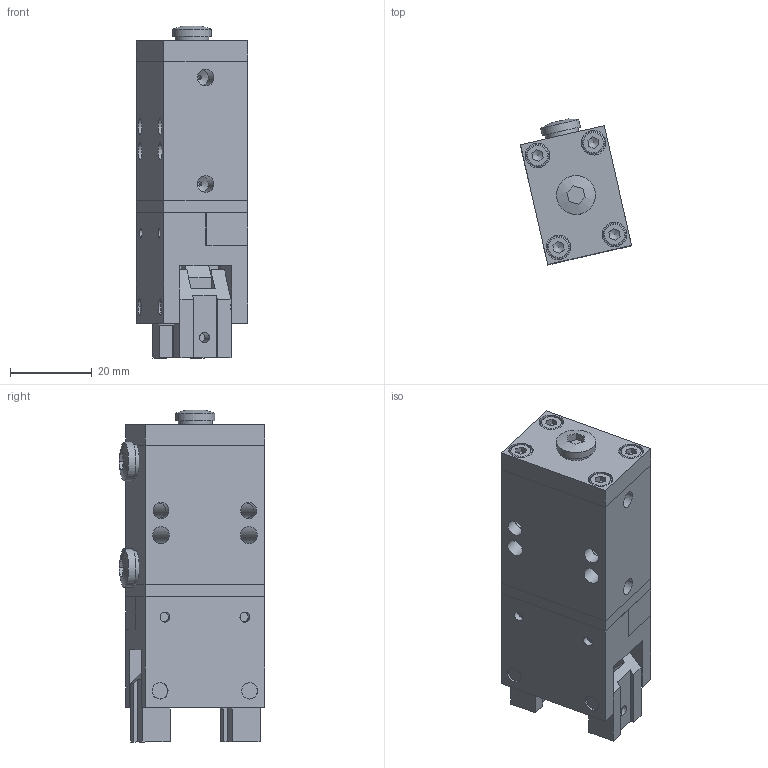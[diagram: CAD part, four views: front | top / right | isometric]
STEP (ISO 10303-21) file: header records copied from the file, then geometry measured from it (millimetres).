
FILE_DESCRIPTION((''),'2;1');
FILE_NAME('C:\Test\stp\3000005-1.stp','2006-04-11T12:57:42',('is'),(''),'Autodesk Inventor 10','Autodesk Inventor 10','');
FILE_SCHEMA(('AUTOMOTIVE_DESIGN { 1 0 10303 214 1 1 1 1 }'));
Length unit declared in the file: millimetre
Products named in the file (4): 3000005-1; 3000008-a; 3000008-b; 3000006-1
Assembly tree (3 placements, depth 2):
  3000005-1
    3000008-a
    3000008-b
    3000006-1
Bounding box: 27.16 x 35.56 x 81.09 mm (x, y, z)
Volume: 38250.2 mm3; surface area: 22662.8 mm2
Topology: 3 solids, 20 shells, 532 faces, 1292 edges, 828 vertices
Faces by surface type: plane 293, bspline 99, cylinder 82, cone 41, torus 14, sphere 3
Full cylindrical faces by diameter (mm): 2.95 x1, 3 x13, 4.9 x1, 5 x3, 5.2 x1, 5.5 x6, 5.7 x1, 6 x4, 7 x4, 7.1 x2, 8.3 x3, 8.75 x2, 9 x1, 9.5 x3, 9.6 x2, 12 x4, 15 x3, 17.6 x1
Entity records: 22342 total; most frequent: CARTESIAN_POINT 11093, DIRECTION 2264, ORIENTED_EDGE 2072, EDGE_CURVE 1036, AXIS2_PLACEMENT_3D 856, EDGE_LOOP 817, VERTEX_POINT 747, VECTOR 552
